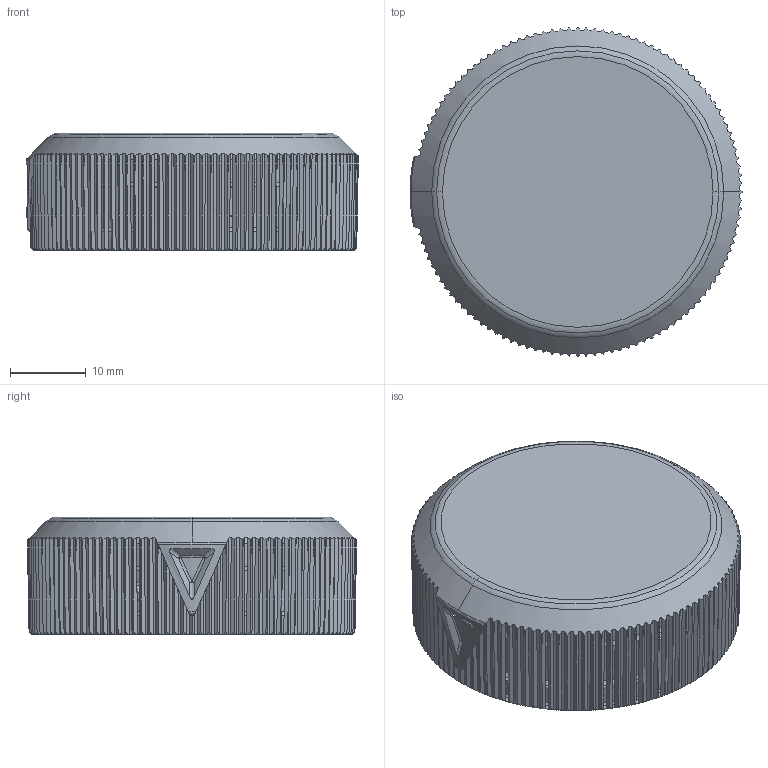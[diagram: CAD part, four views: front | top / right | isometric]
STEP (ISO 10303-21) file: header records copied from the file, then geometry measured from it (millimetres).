
FILE_DESCRIPTION((''),'2;1');
FILE_NAME('10000131013_SW0001','2012-02-14T',('WJPreisc'),('Rockwell Automation'),'PRO/ENGINEER BY PARAMETRIC TECHNOLOGY CORPORATION, 2010140','PRO/ENGINEER BY PARAMETRIC TECHNOLOGY CORPORATION, 2010140','');
FILE_SCHEMA(('CONFIG_CONTROL_DESIGN'));
Length unit declared in the file: millimetre
Products named in the file (1): 10000131013_SW0001
Bounding box: 43.96 x 43.5 x 15.6 mm (x, y, z)
Surface area: 6568.8 mm2 (no closed solid volume)
Topology: 0 solids, 1 shells, 538 faces, 2039 edges, 1367 vertices
Faces by surface type: plane 266, cone 116, torus 115, cylinder 28, bspline 9, sphere 4
Entity records: 22882 total; most frequent: CARTESIAN_POINT 7176, ORIENTED_EDGE 3567, DIRECTION 2791, EDGE_CURVE 2035, VERTEX_POINT 1367, AXIS2_PLACEMENT_3D 1080, B_SPLINE_CURVE_WITH_KNOTS 853, VECTOR 631
